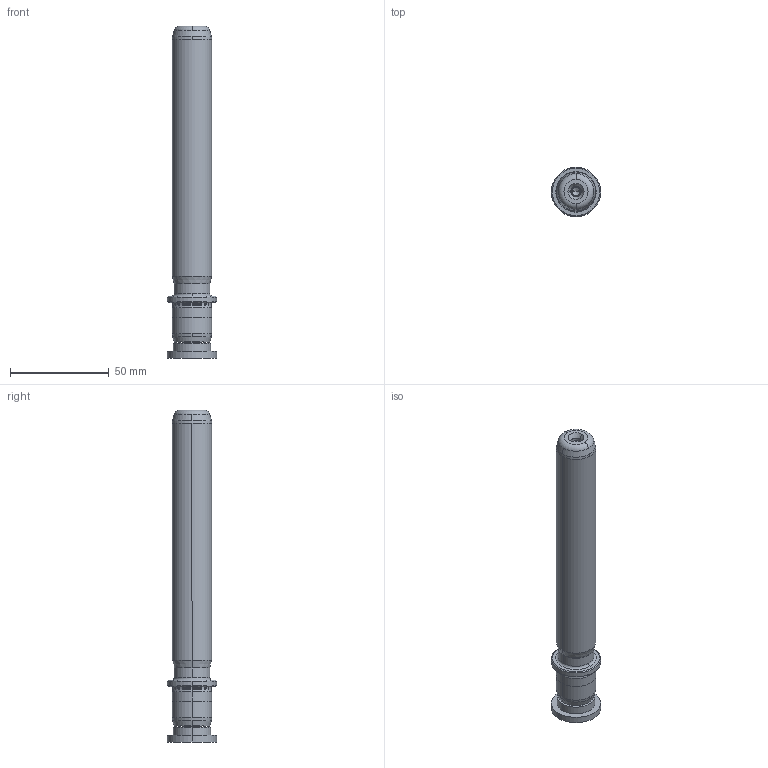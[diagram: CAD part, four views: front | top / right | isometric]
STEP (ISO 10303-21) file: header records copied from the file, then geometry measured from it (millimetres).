
FILE_DESCRIPTION((''),'2;1');
FILE_NAME('P22_020_140.stp','2009-02-02T11:07:06',(''),(''),'Mechanical Desktop 2009','Mechanical Desktop 2009',', , ');
FILE_SCHEMA(('CONFIG_CONTROL_DESIGN'));
Length unit declared in the file: millimetre
Products named in the file (2): Product; blmdl1
Assembly tree (1 placements, depth 2):
  Product
    blmdl1
Bounding box: 25 x 25 x 168 mm (x, y, z)
Volume: 52144.1 mm3; surface area: 13425.8 mm2
Topology: 3 solids, 3 shells, 99 faces, 237 edges, 149 vertices
Faces by surface type: cylinder 32, cone 28, plane 19, bspline 14, torus 6
Entity records: 3579 total; most frequent: CARTESIAN_POINT 1099, DIRECTION 562, ORIENTED_EDGE 466, AXIS2_PLACEMENT_3D 242, EDGE_CURVE 233, CIRCLE 155, VERTEX_POINT 149, EDGE_LOOP 110
